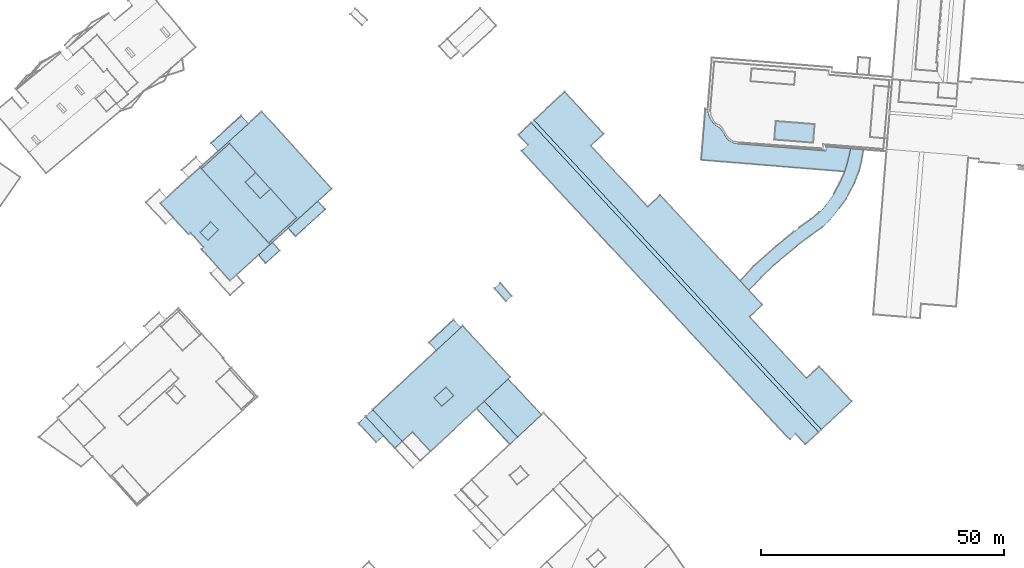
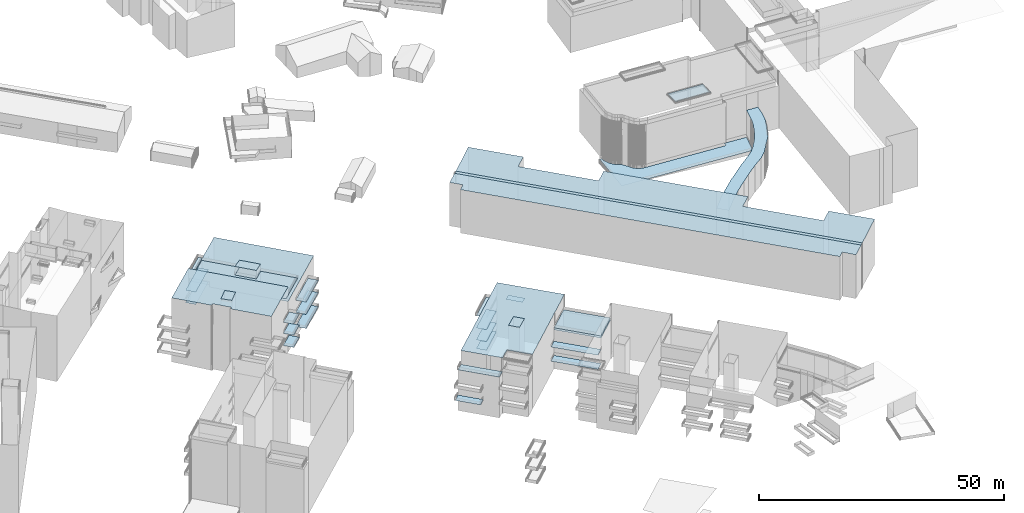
# Not in any storey, part 128 of 136: 67 roofs.
"""IFC4 building model written with IfcOpenShell, lengths in metres."""

from ifc_helpers import new_model, entity, si_unit, converted_unit, frame, origin, place, context, subcontext, project, spatial, face_set, surface_model, element, save


model = new_model("IFC4")

# Units and contexts
model_context = context("Model", 3, precision=1e-05, world=origin())
body_context = subcontext(model_context, "Body", "Model", "MODEL_VIEW")
ifc_project = project(units=[converted_unit("PLANEANGLEUNIT", "DEGREE", entity("IfcRatioMeasure", 0.0174532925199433), si_unit("PLANEANGLEUNIT", "RADIAN"), dimensions=[0, 0, 0, 0, 0, 0, 0]), si_unit("AREAUNIT", "SQUARE_METRE"), si_unit("LENGTHUNIT", "METRE")], contexts=[model_context])

# Site, building
site_placement = place(None, origin())
site = spatial("IfcSite", under=ifc_project, at=site_placement, Name="_site")
building_1_placement = place(site_placement, origin())
building_1 = spatial("IfcBuilding", under=site, at=building_1_placement, Name="_building")

# Roofs
for number, where, name in (
    (1, (0.0, 0.0, 0.0), "Roof"),
    (2, (0.0, 0.0, 0.0), "Roof"),
):
    element("IfcRoof", number, at=place(building_1_placement, frame(where)), inside=building_1, Name=name, PredefinedType="NOTDEFINED", context=body_context, shape_type="SurfaceModel", body=[
        surface_model("IfcFaceBasedSurfaceModel", [(104.82, -3.59, 42.0), (103.37, -4.939, 42.0), (107.05, -8.89, 42.0), (108.5, -7.54, 42.0)], [face_set([[[0, 1, 2, 3]]])]),
    ])
roof_1_placement = place(building_1_placement, origin())
element("IfcRoof", 3, at=roof_1_placement, inside=building_1, Name="Roof", PredefinedType="NOTDEFINED", context=body_context, shape_type="SurfaceModel", body=[
    surface_model("IfcFaceBasedSurfaceModel", [(129.21, -0.479, 44.99), (127.64, -1.95, 44.99), (134.49, -9.28, 44.99), (136.06, -7.81, 44.99)], [face_set([[[0, 1, 2, 3]]])]),
])
roof_2_placement = place(building_1_placement, origin())
element("IfcRoof", 4, at=roof_2_placement, inside=building_1, Name="Roof", PredefinedType="NOTDEFINED", context=body_context, shape_type="SurfaceModel", body=[
    surface_model("IfcFaceBasedSurfaceModel", [(119.35, 9.97, 39.81), (124.42, 14.69, 39.81), (122.92, 16.3, 39.81), (117.86, 11.57, 39.81)], [face_set([[[0, 1, 2, 3]]])]),
])
roof_3_placement = place(building_1_placement, origin())
element("IfcRoof", 5, at=roof_3_placement, inside=building_1, Name="Roof", PredefinedType="NOTDEFINED", context=body_context, shape_type="SurfaceModel", body=[
    surface_model("IfcFaceBasedSurfaceModel", [(119.35, 9.97, 44.97), (124.42, 14.69, 44.97), (122.92, 16.3, 44.97), (117.86, 11.57, 44.97)], [face_set([[[0, 1, 2, 3]]])]),
])
roof_4_placement = place(building_1_placement, origin())
element("IfcRoof", 6, at=roof_4_placement, inside=building_1, Name="Roof", PredefinedType="NOTDEFINED", context=body_context, shape_type="SurfaceModel", body=[
    surface_model("IfcFaceBasedSurfaceModel", [(119.35, 9.97, 48.0), (124.42, 14.69, 48.0), (122.92, 16.3, 48.0), (117.86, 11.57, 48.0)], [face_set([[[0, 1, 2, 3]]])]),
])
roof_5_placement = place(building_1_placement, origin())
element("IfcRoof", 7, at=roof_5_placement, inside=building_1, Name="Roof", PredefinedType="NOTDEFINED", context=body_context, shape_type="SurfaceModel", body=[
    surface_model("IfcFaceBasedSurfaceModel", [(129.21, -0.479, 41.46), (127.64, -1.95, 41.46), (134.49, -9.28, 41.46), (136.06, -7.81, 41.46)], [face_set([[[0, 1, 2, 3]]])]),
])
roof_6_placement = place(building_1_placement, origin())
element("IfcRoof", 8, at=roof_6_placement, inside=building_1, Name="Roof", PredefinedType="NOTDEFINED", context=body_context, shape_type="SurfaceModel", body=[
    surface_model("IfcFaceBasedSurfaceModel", [(119.35, 9.97, 42.0), (124.42, 14.69, 42.0), (122.92, 16.3, 42.0), (117.86, 11.57, 42.0)], [face_set([[[0, 1, 2, 3]]])]),
])
roof_7_placement = place(building_1_placement, origin())
element("IfcRoof", 9, at=roof_7_placement, inside=building_1, Name="Roof", PredefinedType="NOTDEFINED", context=body_context, shape_type="SurfaceModel", body=[
    surface_model("IfcFaceBasedSurfaceModel", [(129.21, -0.479, 48.33), (136.06, -7.81, 48.33), (140.97, -3.229, 48.33), (134.12, 4.101, 48.33)], [face_set([[[0, 1, 2, 3]]])]),
])
roof_8_placement = place(building_1_placement, origin())
element("IfcRoof", 10, at=roof_8_placement, inside=building_1, Name="Roof", PredefinedType="NOTDEFINED", context=body_context, shape_type="SurfaceModel", body=[
    surface_model("IfcFaceBasedSurfaceModel", [(106.3, -2.21, 48.29), (104.82, -3.59, 48.29), (110.83, -10.05, 48.29), (112.32, -8.66, 48.29)], [face_set([[[0, 1, 2, 3]]])]),
])
roof_9_placement = place(building_1_placement, origin())
element("IfcRoof", 11, at=roof_9_placement, inside=building_1, Name="Roof", PredefinedType="NOTDEFINED", context=body_context, shape_type="SurfaceModel", body=[
    surface_model("IfcFaceBasedSurfaceModel", [(140.97, -3.229, 47.82), (134.12, 4.101, 47.82), (129.5, -0.21, 47.82), (129.21, -0.479, 47.82), (136.06, -7.81, 47.82)], [face_set([[[0, 1, 2, 3, 4]]])]),
])

# Building
building_2_placement = place(site_placement, origin())
building_2 = spatial("IfcBuilding", under=site, at=building_2_placement, Name="_building")

# Roofs
for number, where, name in (
    (12, (0.0, 0.0, 0.0), "Roof"),
    (13, (0.0, 0.0, 0.0), "Roof"),
):
    element("IfcRoof", number, at=place(building_2_placement, frame(where)), inside=building_2, Name=name, PredefinedType="NOTDEFINED", context=body_context, shape_type="SurfaceModel", body=[
        surface_model("IfcFaceBasedSurfaceModel", [(197.91, -6.82, 48.72), (138.87, 56.73, 48.72), (136.27, 54.32, 48.81), (138.21, 52.24, 48.81), (136.9, 51.021, 48.81), (192.04, -8.32, 48.81), (193.24, -7.189, 48.81), (195.22, -9.32, 48.76)], [face_set([[[0, 1, 2, 3, 4, 5, 6, 7]]])]),
    ])
roof_10_placement = place(building_2_placement, origin())
element("IfcRoof", 14, at=roof_10_placement, inside=building_2, Name="Roof", PredefinedType="NOTDEFINED", context=body_context, shape_type="SurfaceModel", body=[
    surface_model("IfcFaceBasedSurfaceModel", [(198.5, -6.27, 48.72), (204.72, -0.49, 48.95), (198.05, 6.68, 48.95), (195.46, 4.28, 48.95), (183.73, 16.9, 48.95), (186.37, 19.351, 48.95), (183.62, 22.32, 48.95), (181.81, 24.26, 48.95), (165.41, 41.91, 48.95), (162.81, 39.49, 48.95), (151.12, 52.07, 48.95), (153.74, 54.51, 48.95), (145.74, 63.12, 48.95), (139.46, 57.28, 48.72)], [face_set([[[0, 1, 2, 3, 4, 5, 6, 7, 8, 9, 10, 11, 12, 13]]])]),
])
for number, where, name in (
    (15, (0.0, 0.0, 0.0), "Roof"),
    (16, (0.0, 0.0, 0.0), "Roof"),
):
    element("IfcRoof", number, at=place(building_2_placement, frame(where)), inside=building_2, Name=name, PredefinedType="NOTDEFINED", context=body_context, shape_type="SurfaceModel", body=[
        surface_model("IfcFaceBasedSurfaceModel", [(197.91, -6.82, 48.72), (198.5, -6.27, 48.72), (139.46, 57.28, 48.72), (138.87, 56.73, 48.72)], [face_set([[[0, 1, 2, 3]]])]),
    ])
roof_11_placement = place(building_2_placement, origin())
element("IfcRoof", 17, at=roof_11_placement, inside=building_2, Name="Roof", PredefinedType="NOTDEFINED", context=body_context, shape_type="SurfaceModel", body=[
    surface_model("IfcFaceBasedSurfaceModel", [(198.5, -6.27, 48.72), (204.72, -0.49, 48.95), (198.05, 6.68, 48.95), (195.46, 4.28, 48.95), (183.73, 16.9, 48.95), (186.37, 19.351, 48.95), (183.62, 22.32, 48.95), (181.81, 24.26, 48.95), (165.41, 41.91, 48.95), (162.81, 39.49, 48.95), (151.12, 52.07, 48.95), (153.74, 54.51, 48.95), (145.74, 63.12, 48.95), (139.46, 57.28, 48.72)], [face_set([[[0, 1, 2, 3, 4, 5, 6, 7, 8, 9, 10, 11, 12, 13]]])]),
])

# Building
building_3_placement = place(site_placement, origin())
building_3 = spatial("IfcBuilding", under=site, at=building_3_placement, Name="_building")

# Roofs
roof_12_placement = place(building_3_placement, origin())
element("IfcRoof", 18, at=roof_12_placement, inside=building_3, Name="Roof", PredefinedType="NOTDEFINED", context=body_context, shape_type="SurfaceModel", body=[
    surface_model("IfcFaceBasedSurfaceModel", [(129.21, -0.479, 44.99), (127.64, -1.95, 44.99), (134.49, -9.28, 44.99), (136.06, -7.81, 44.99)], [face_set([[[0, 1, 2, 3]]])]),
])
roof_13_placement = place(building_3_placement, origin())
element("IfcRoof", 19, at=roof_13_placement, inside=building_3, Name="Roof", PredefinedType="NOTDEFINED", context=body_context, shape_type="SurfaceModel", body=[
    surface_model("IfcFaceBasedSurfaceModel", [(129.21, -0.479, 41.46), (127.64, -1.95, 41.46), (134.49, -9.28, 41.46), (136.06, -7.81, 41.46)], [face_set([[[0, 1, 2, 3]]])]),
])

# Building
building_4_placement = place(site_placement, origin())
building_4 = spatial("IfcBuilding", under=site, at=building_4_placement, Name="_building")

# Roofs
for number, where, name in (
    (20, (0.0, 0.0, 0.0), "Roof"),
    (21, (0.0, 0.0, 0.0), "Roof"),
):
    element("IfcRoof", number, at=place(building_4_placement, frame(where)), inside=building_4, Name=name, PredefinedType="NOTDEFINED", context=body_context, shape_type="SurfaceModel", body=[
        surface_model("IfcFaceBasedSurfaceModel", [(132.53, 23.84, 40.58), (131.34, 22.8, 40.58), (133.68, 20.11, 40.58), (134.87, 21.15, 40.58)], [face_set([[[0, 1, 2, 3]]])]),
    ])

# Building
building_5_placement = place(site_placement, origin())
building_5 = spatial("IfcBuilding", under=site, at=building_5_placement, Name="_building")

# Roofs
for number, where, name in (
    (22, (0.0, 0.0, 0.0), "Roof"),
    (23, (0.0, 0.0, 0.0), "Roof"),
):
    element("IfcRoof", number, at=place(building_5_placement, frame(where)), inside=building_5, Name=name, PredefinedType="NOTDEFINED", context=body_context, shape_type="SurfaceModel", body=[
        surface_model("IfcFaceBasedSurfaceModel", [(106.3, -2.21, 48.25), (104.82, -3.59, 48.25), (108.5, -7.54, 48.25), (110.83, -10.05, 48.25), (112.32, -8.66, 48.25), (109.98, -6.16, 48.25)], [face_set([[[0, 1, 2, 3, 4, 5]]])]),
    ])
for number, where, name in (
    (24, (0.0, 0.0, 0.0), "Roof"),
    (25, (0.0, 0.0, 0.0), "Roof"),
):
    element("IfcRoof", number, at=place(building_5_placement, frame(where)), inside=building_5, Name=name, PredefinedType="NOTDEFINED", context=body_context, shape_type="SurfaceModel", body=[
        surface_model("IfcFaceBasedSurfaceModel", [(112.38, -8.729, 51.74), (114.48, -6.77, 51.74), (118.19, -10.75, 51.74), (129.21, -0.479, 51.74), (129.5, -0.21, 51.74), (134.12, 4.101, 51.74), (134.57, 4.521, 51.74), (124.77, 15.021, 51.74), (106.3, -2.21, 51.74), (109.98, -6.16, 51.74), (110.57, -6.79, 51.74), (112.32, -8.66, 51.74)], [face_set([[[0, 1, 2, 3, 4, 5, 6, 7, 8, 9, 10, 11]]])]),
    ])
for number, where, name in (
    (26, (0.0, 0.0, 0.0), "Roof"),
    (27, (0.0, 0.0, 0.0), "Roof"),
):
    element("IfcRoof", number, at=place(building_5_placement, frame(where)), inside=building_5, Name=name, PredefinedType="NOTDEFINED", context=body_context, shape_type="SurfaceModel", body=[
        surface_model("IfcFaceBasedSurfaceModel", [(121.37, 2.44, 52.1), (118.93, 0.26, 52.1), (120.5, -1.5, 52.1), (122.94, 0.68, 52.1)], [face_set([[[0, 1, 2, 3]]])]),
    ])
roof_14_placement = place(building_5_placement, origin())
element("IfcRoof", 28, at=roof_14_placement, inside=building_5, Name="Roof", PredefinedType="NOTDEFINED", context=body_context, shape_type="SurfaceModel", body=[
    surface_model("IfcFaceBasedSurfaceModel", [(119.35, 9.97, 39.81), (124.42, 14.69, 39.81), (122.92, 16.3, 39.81), (117.86, 11.57, 39.81)], [face_set([[[0, 1, 2, 3]]])]),
])
roof_15_placement = place(building_5_placement, origin())
element("IfcRoof", 29, at=roof_15_placement, inside=building_5, Name="Roof", PredefinedType="NOTDEFINED", context=body_context, shape_type="SurfaceModel", body=[
    surface_model("IfcFaceBasedSurfaceModel", [(119.35, 9.97, 44.97), (124.42, 14.69, 44.97), (122.92, 16.3, 44.97), (117.86, 11.57, 44.97)], [face_set([[[0, 1, 2, 3]]])]),
])
roof_16_placement = place(building_5_placement, origin())
element("IfcRoof", 30, at=roof_16_placement, inside=building_5, Name="Roof", PredefinedType="NOTDEFINED", context=body_context, shape_type="SurfaceModel", body=[
    surface_model("IfcFaceBasedSurfaceModel", [(119.35, 9.97, 48.0), (124.42, 14.69, 48.0), (122.92, 16.3, 48.0), (117.86, 11.57, 48.0)], [face_set([[[0, 1, 2, 3]]])]),
])
roof_17_placement = place(building_5_placement, origin())
element("IfcRoof", 31, at=roof_17_placement, inside=building_5, Name="Roof", PredefinedType="NOTDEFINED", context=body_context, shape_type="SurfaceModel", body=[
    surface_model("IfcFaceBasedSurfaceModel", [(119.35, 9.97, 42.0), (124.42, 14.69, 42.0), (122.92, 16.3, 42.0), (117.86, 11.57, 42.0)], [face_set([[[0, 1, 2, 3]]])]),
])
roof_18_placement = place(building_5_placement, origin())
element("IfcRoof", 32, at=roof_18_placement, inside=building_5, Name="Roof", PredefinedType="NOTDEFINED", context=body_context, shape_type="SurfaceModel", body=[
    surface_model("IfcFaceBasedSurfaceModel", [(129.21, -0.479, 48.33), (136.06, -7.81, 48.33), (140.97, -3.229, 48.33), (134.12, 4.101, 48.33)], [face_set([[[0, 1, 2, 3]]])]),
])
roof_19_placement = place(building_5_placement, origin())
element("IfcRoof", 33, at=roof_19_placement, inside=building_5, Name="Roof", PredefinedType="NOTDEFINED", context=body_context, shape_type="SurfaceModel", body=[
    surface_model("IfcFaceBasedSurfaceModel", [(106.3, -2.21, 48.29), (104.82, -3.59, 48.29), (110.83, -10.05, 48.29), (112.32, -8.66, 48.29)], [face_set([[[0, 1, 2, 3]]])]),
])
roof_20_placement = place(building_5_placement, origin())
element("IfcRoof", 34, at=roof_20_placement, inside=building_5, Name="Roof", PredefinedType="NOTDEFINED", context=body_context, shape_type="SurfaceModel", body=[
    surface_model("IfcFaceBasedSurfaceModel", [(140.97, -3.229, 47.82), (134.12, 4.101, 47.82), (129.5, -0.21, 47.82), (129.21, -0.479, 47.82), (136.06, -7.81, 47.82)], [face_set([[[0, 1, 2, 3, 4]]])]),
])

# Building
building_6_placement = place(site_placement, origin())
building_6 = spatial("IfcBuilding", under=site, at=building_6_placement, Name="_building")

# Roofs
for number, where, name in (
    (35, (0.0, 0.0, 0.0), "Roof"),
    (36, (0.0, 0.0, 0.0), "Roof"),
):
    element("IfcRoof", number, at=place(building_6_placement, frame(where)), inside=building_6, Name=name, PredefinedType="NOTDEFINED", context=body_context, shape_type="SurfaceModel", body=[
        surface_model("IfcFaceBasedSurfaceModel", [(85.66, 32.18, 41.92), (82.82, 29.61, 41.92), (84.32, 27.95, 41.92), (87.16, 30.521, 41.92)], [face_set([[[0, 1, 2, 3]]])]),
    ])
for number, where, name in (
    (37, (0.0, 0.0, 0.0), "Roof"),
    (38, (0.0, 0.0, 0.0), "Roof"),
):
    element("IfcRoof", number, at=place(building_6_placement, frame(where)), inside=building_6, Name=name, PredefinedType="NOTDEFINED", context=body_context, shape_type="SurfaceModel", body=[
        surface_model("IfcFaceBasedSurfaceModel", [(70.81, 34.23, 54.96), (72.45, 32.61, 54.96), (74.59, 34.771, 54.96), (72.95, 36.39, 54.96)], [face_set([[[0, 1, 2, 3]]])]),
    ])
for number, where, name in (
    (39, (0.0, 0.0, 0.0), "Roof"),
    (40, (0.0, 0.0, 0.0), "Roof"),
):
    element("IfcRoof", number, at=place(building_6_placement, frame(where)), inside=building_6, Name=name, PredefinedType="NOTDEFINED", context=body_context, shape_type="SurfaceModel", body=[
        surface_model("IfcFaceBasedSurfaceModel", [(74.53, 50.94, 42.09), (80.76, 56.58, 42.09), (79.29, 58.21, 42.09), (73.06, 52.57, 42.09)], [face_set([[[0, 1, 2, 3]]])]),
    ])
for number, where, name in (
    (41, (0.0, 0.0, 0.0), "Roof"),
    (42, (0.0, 0.0, 0.0), "Roof"),
):
    element("IfcRoof", number, at=place(building_6_placement, frame(where)), inside=building_6, Name=name, PredefinedType="NOTDEFINED", context=body_context, shape_type="SurfaceModel", body=[
        surface_model("IfcFaceBasedSurfaceModel", [(88.93, 35.15, 44.63), (90.44, 33.48, 44.63), (96.52, 38.98, 44.63), (95.01, 40.65, 44.63)], [face_set([[[0, 1, 2, 3]]])]),
    ])
for number, where, name in (
    (43, (0.0, 0.0, 0.0), "Roof"),
    (44, (0.0, 0.0, 0.0), "Roof"),
):
    element("IfcRoof", number, at=place(building_6_placement, frame(where)), inside=building_6, Name=name, PredefinedType="NOTDEFINED", context=body_context, shape_type="SurfaceModel", body=[
        surface_model("IfcFaceBasedSurfaceModel", [(88.93, 35.15, 41.14), (90.44, 33.48, 41.14), (96.52, 38.98, 41.14), (95.01, 40.65, 41.14)], [face_set([[[0, 1, 2, 3]]])]),
    ])
for number, where, name in (
    (45, (0.0, 0.0, 0.0), "Roof"),
    (46, (0.0, 0.0, 0.0), "Roof"),
):
    element("IfcRoof", number, at=place(building_6_placement, frame(where)), inside=building_6, Name=name, PredefinedType="NOTDEFINED", context=body_context, shape_type="SurfaceModel", body=[
        surface_model("IfcFaceBasedSurfaceModel", [(85.66, 32.18, 47.7), (82.82, 29.61, 47.7), (84.32, 27.95, 47.7), (87.16, 30.521, 47.7)], [face_set([[[0, 1, 2, 3]]])]),
    ])
for number, where, name in (
    (47, (0.0, 0.0, 0.0), "Roof"),
    (48, (0.0, 0.0, 0.0), "Roof"),
):
    element("IfcRoof", number, at=place(building_6_placement, frame(where)), inside=building_6, Name=name, PredefinedType="NOTDEFINED", context=body_context, shape_type="SurfaceModel", body=[
        surface_model("IfcFaceBasedSurfaceModel", [(88.93, 35.15, 47.7), (90.44, 33.48, 47.7), (96.52, 38.98, 47.7), (95.01, 40.65, 47.7)], [face_set([[[0, 1, 2, 3]]])]),
    ])
for number, where, name in (
    (49, (0.0, 0.0, 0.0), "Roof"),
    (50, (0.0, 0.0, 0.0), "Roof"),
):
    element("IfcRoof", number, at=place(building_6_placement, frame(where)), inside=building_6, Name=name, PredefinedType="NOTDEFINED", context=body_context, shape_type="SurfaceModel", body=[
        surface_model("IfcFaceBasedSurfaceModel", [(74.53, 50.94, 45.18), (80.76, 56.58, 45.18), (79.29, 58.21, 45.18), (73.06, 52.57, 45.18)], [face_set([[[0, 1, 2, 3]]])]),
    ])
for number, where, name in (
    (51, (0.0, 0.0, 0.0), "Roof"),
    (52, (0.0, 0.0, 0.0), "Roof"),
):
    element("IfcRoof", number, at=place(building_6_placement, frame(where)), inside=building_6, Name=name, PredefinedType="NOTDEFINED", context=body_context, shape_type="SurfaceModel", body=[
        surface_model("IfcFaceBasedSurfaceModel", [(74.53, 50.94, 47.79), (80.76, 56.58, 47.79), (79.29, 58.21, 47.79), (73.06, 52.57, 47.79)], [face_set([[[0, 1, 2, 3]]])]),
    ])
for number, where, name in (
    (53, (0.0, 0.0, 0.0), "Roof"),
    (54, (0.0, 0.0, 0.0), "Roof"),
):
    element("IfcRoof", number, at=place(building_6_placement, frame(where)), inside=building_6, Name=name, PredefinedType="NOTDEFINED", context=body_context, shape_type="SurfaceModel", body=[
        surface_model("IfcFaceBasedSurfaceModel", [(85.19, 31.76, 54.39), (70.85, 47.61, 54.39), (62.68, 40.22, 54.39), (68.46, 33.83, 54.39), (68.86, 34.2, 54.39), (71.55, 31.22, 54.39), (71.11, 30.82, 54.39), (76.98, 24.33, 54.39)], [face_set([[[0, 1, 2, 3, 4, 5, 6, 7]]])]),
    ])
for number, where, name in (
    (55, (0.0, 0.0, 0.0), "Roof"),
    (56, (0.0, 0.0, 0.0), "Roof"),
):
    element("IfcRoof", number, at=place(building_6_placement, frame(where)), inside=building_6, Name=name, PredefinedType="NOTDEFINED", context=body_context, shape_type="SurfaceModel", body=[
        surface_model("IfcFaceBasedSurfaceModel", [(70.85, 47.61, 50.74), (85.19, 31.76, 50.74), (97.86, 43.23, 50.74), (83.51, 59.08, 50.74)], [face_set([[[0, 1, 2, 3]]])]),
    ])
for number, where, name in (
    (57, (0.0, 0.0, 0.0), "Roof"),
    (58, (0.0, 0.0, 0.0), "Roof"),
):
    element("IfcRoof", number, at=place(building_6_placement, frame(where)), inside=building_6, Name=name, PredefinedType="NOTDEFINED", context=body_context, shape_type="SurfaceModel", body=[
        surface_model("IfcFaceBasedSurfaceModel", [(71.11, 47.32, 51.32), (84.91, 32.08, 51.32), (90.65, 37.28, 51.32), (85.32, 43.17, 51.32), (83.17, 41.22, 51.32), (80.11, 44.59, 51.32), (82.27, 46.54, 51.32), (76.85, 52.521, 51.32)], [face_set([[[0, 1, 2, 3, 4, 5, 6, 7]]])]),
    ])
roof_21_placement = place(building_6_placement, origin())
element("IfcRoof", 59, at=roof_21_placement, inside=building_6, Name="Roof", PredefinedType="NOTDEFINED", context=body_context, shape_type="SurfaceModel", body=[
    surface_model("IfcFaceBasedSurfaceModel", [(83.17, 41.22, 53.44), (85.3, 43.15, 53.1), (82.25, 46.521, 53.12), (80.11, 44.59, 53.46)], [face_set([[[0, 1, 2, 3]]])]),
])
for number, where, name in (
    (60, (0.0, 0.0, 0.0), "Roof"),
    (61, (0.0, 0.0, 0.0), "Roof"),
):
    element("IfcRoof", number, at=place(building_6_placement, frame(where)), inside=building_6, Name=name, PredefinedType="NOTDEFINED", context=body_context, shape_type="SurfaceModel", body=[
        surface_model("IfcFaceBasedSurfaceModel", [(85.66, 32.18, 44.95), (82.82, 29.61, 44.95), (84.32, 27.95, 44.95), (87.16, 30.521, 44.95)], [face_set([[[0, 1, 2, 3]]])]),
    ])
roof_22_placement = place(building_6_placement, origin())
element("IfcRoof", 62, at=roof_22_placement, inside=building_6, Name="Roof", PredefinedType="NOTDEFINED", context=body_context, shape_type="SurfaceModel", body=[
    surface_model("IfcFaceBasedSurfaceModel", [(83.17, 41.22, 53.44), (85.3, 43.15, 53.1), (82.25, 46.521, 53.12), (80.11, 44.59, 53.46)], [face_set([[[0, 1, 2, 3]]])]),
])

# Building
building_7_placement = place(site_placement, origin())
building_7 = spatial("IfcBuilding", under=site, at=building_7_placement, Name="_building")

# Roofs
roof_23_placement = place(building_7_placement, origin())
element("IfcRoof", 63, at=roof_23_placement, inside=building_7, Name="Roof", PredefinedType="NOTDEFINED", context=body_context, shape_type="SurfaceModel", body=[
    surface_model("IfcFaceBasedSurfaceModel", [(196.83, 52.64, 51.1), (197.13, 56.45, 50.7), (189.14, 57.09, 50.69), (188.84, 53.28, 51.1)], [face_set([[[0, 1, 2, 3]]])]),
])
roof_24_placement = place(building_7_placement, origin())
element("IfcRoof", 64, at=roof_24_placement, inside=building_7, Name="Roof", PredefinedType="NOTDEFINED", context=body_context, shape_type="SurfaceModel", body=[
    surface_model("IfcFaceBasedSurfaceModel", [(204.54, 51.45, 37.93), (199.48, 51.86, 37.93), (199.41, 50.99, 37.93), (181.37, 52.45, 37.93), (181.2, 52.46, 37.93), (180.88, 52.5, 37.93), (180.57, 52.58, 37.93), (180.27, 52.68, 37.93), (179.98, 52.82, 37.93), (179.7, 52.98, 37.93), (179.45, 53.17, 37.93), (179.21, 53.39, 37.93), (179.0, 53.62, 37.93), (178.81, 53.88, 37.93), (178.64, 54.16, 37.93), (178.51, 54.45, 37.93), (177.7, 55.69, 37.93), (177.64, 55.72, 37.93), (177.31, 55.89, 37.93), (177.0, 56.09, 37.93), (176.7, 56.32, 37.93), (176.42, 56.58, 37.93), (176.17, 56.851, 37.93), (175.94, 57.15, 37.93), (175.74, 57.46, 37.93), (175.57, 57.8, 37.93), (175.42, 58.14, 37.93), (175.31, 58.5, 37.93), (175.22, 58.86, 37.93), (175.17, 59.23, 37.93), (175.15, 59.601, 37.93), (174.67, 59.64, 37.93), (173.81, 49.13, 37.93), (203.29, 46.74, 37.93), (203.75, 48.13, 37.93)], [face_set([[[0, 1, 2, 3, 4, 5, 6, 7, 8, 9, 10, 11, 12, 13, 14, 15, 16, 17, 18, 19, 20, 21, 22, 23, 24, 25, 26, 27, 28, 29, 30, 31, 32, 33, 34]]])]),
])
for number, where, name in (
    (65, (0.0, 0.0, 0.0), "Roof"),
    (66, (0.0, 0.0, 0.0), "Roof"),
):
    element("IfcRoof", number, at=place(building_7_placement, frame(where)), inside=building_7, Name=name, PredefinedType="NOTDEFINED", context=body_context, shape_type="SurfaceModel", body=[
        surface_model("IfcFaceBasedSurfaceModel", [(181.81, 24.26, 44.65), (183.62, 22.32, 44.65), (186.17, 25.04, 44.65), (188.79, 27.58, 44.65), (191.38, 29.71, 44.65), (193.48, 31.48, 44.65), (196.18, 33.55, 44.65), (198.65, 35.26, 44.65), (200.21, 36.73, 44.65), (201.32, 38.14, 44.65), (202.14, 39.18, 44.65), (203.61, 41.13, 44.65), (204.05, 41.99, 44.65), (205.27, 44.36, 44.65), (206.23, 46.84, 44.65), (206.77, 48.96, 44.65), (207.13, 51.24, 44.65), (204.54, 51.45, 44.65), (203.75, 48.13, 44.65), (203.14, 46.29, 44.65), (202.31, 44.47, 44.65), (201.1, 42.18, 44.65), (199.99, 40.66, 44.65), (198.88, 39.21, 44.65), (198.06, 38.351, 44.65), (196.29, 36.9, 44.65), (193.89, 35.19, 44.65), (192.82, 34.33, 44.65), (189.19, 31.4, 44.65), (184.58, 27.3, 44.65)], [face_set([[[0, 1, 2, 3, 4, 5, 6, 7, 8, 9, 10, 11, 12, 13, 14, 15, 16, 17, 18, 19, 20, 21, 22, 23, 24, 25, 26, 27, 28, 29]]])]),
    ])
roof_25_placement = place(building_7_placement, origin())
element("IfcRoof", 67, at=roof_25_placement, inside=building_7, Name="Roof", PredefinedType="NOTDEFINED", context=body_context, shape_type="SurfaceModel", body=[
    surface_model("IfcFaceBasedSurfaceModel", [(204.54, 51.45, 37.93), (199.48, 51.86, 37.93), (199.41, 50.99, 37.93), (181.37, 52.45, 37.93), (181.2, 52.46, 37.93), (180.88, 52.5, 37.93), (180.57, 52.58, 37.93), (180.27, 52.68, 37.93), (179.98, 52.82, 37.93), (179.7, 52.98, 37.93), (179.45, 53.17, 37.93), (179.21, 53.39, 37.93), (179.0, 53.62, 37.93), (178.81, 53.88, 37.93), (178.64, 54.16, 37.93), (178.51, 54.45, 37.93), (177.7, 55.69, 37.93), (177.64, 55.72, 37.93), (177.31, 55.89, 37.93), (177.0, 56.09, 37.93), (176.7, 56.32, 37.93), (176.42, 56.58, 37.93), (176.17, 56.851, 37.93), (175.94, 57.15, 37.93), (175.74, 57.46, 37.93), (175.57, 57.8, 37.93), (175.42, 58.14, 37.93), (175.31, 58.5, 37.93), (175.22, 58.86, 37.93), (175.17, 59.23, 37.93), (175.15, 59.601, 37.93), (174.67, 59.64, 37.93), (173.81, 49.13, 37.93), (203.29, 46.74, 37.93), (203.75, 48.13, 37.93)], [face_set([[[0, 1, 2, 3, 4, 5, 6, 7, 8, 9, 10, 11, 12, 13, 14, 15, 16, 17, 18, 19, 20, 21, 22, 23, 24, 25, 26, 27, 28, 29, 30, 31, 32, 33, 34]]])]),
])

save(model, "model.ifc")
